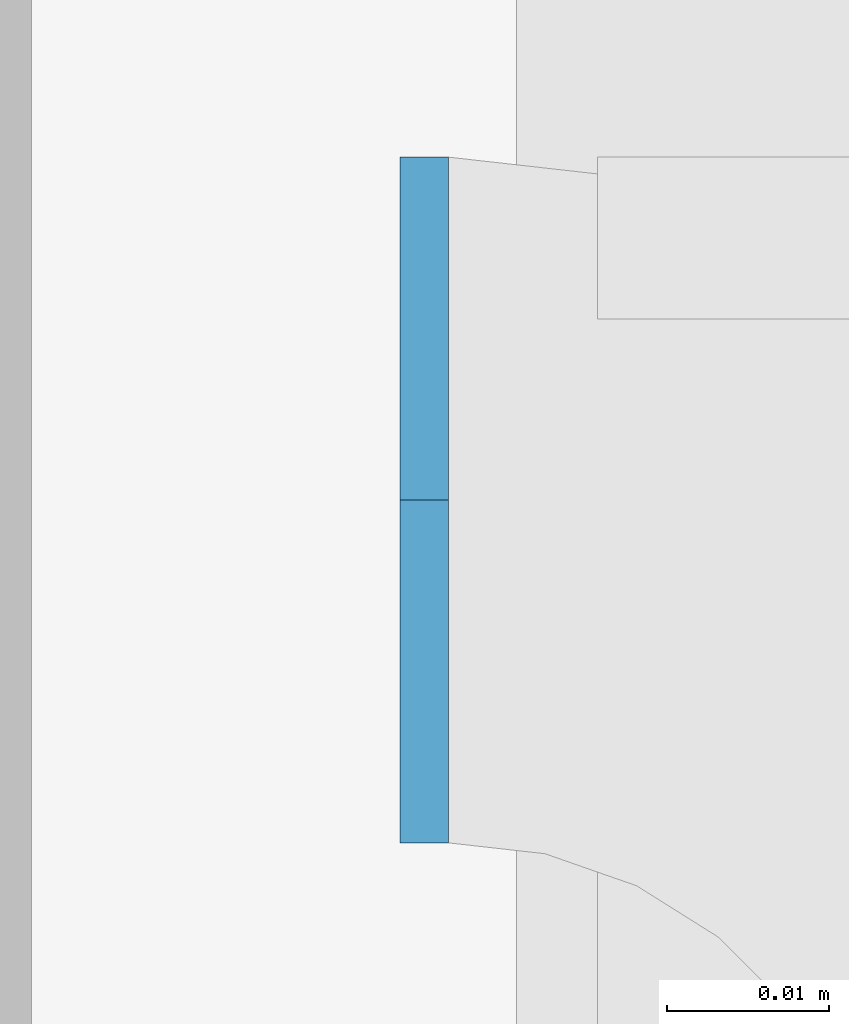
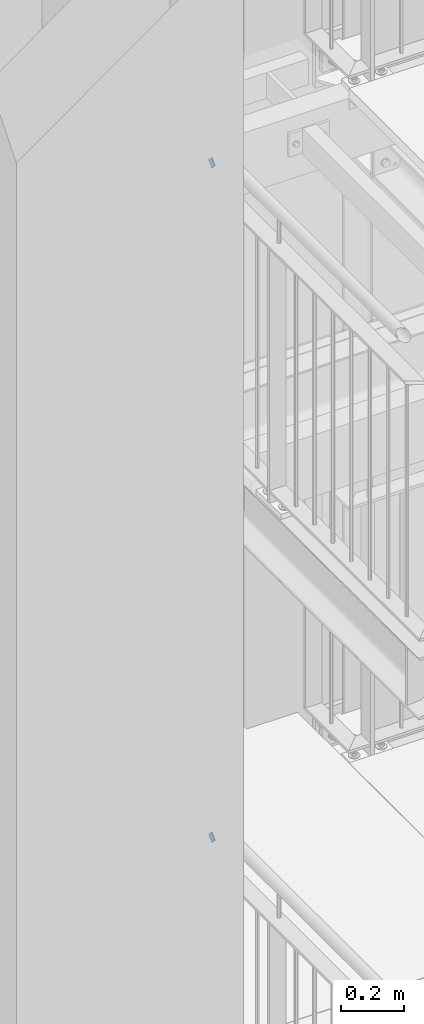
# One storey, part 220 of 825: 2 plates, 8 openings.
"""IFC2X3 building model written with IfcOpenShell, lengths in millimetres."""

from ifc_helpers import new_model, entity, si_unit, converted_unit, point, frame, frame_2d, origin, origin_with_axes, place, context, project, spatial, polyline, circle_curve, line_curve, trimmed, segment, composite_curve, outline, extrude, material, layer, layer_set, element, save


model = new_model("IFC2X3")

# Units and contexts
model_context = context("Model", 3, precision=1e-09, world=origin_with_axes())
ifc_project = project(units=[si_unit("LENGTHUNIT", "METRE", prefix="MILLI"), si_unit("AREAUNIT", "SQUARE_METRE"), si_unit("VOLUMEUNIT", "CUBIC_METRE"), converted_unit("PLANEANGLEUNIT", "DEGREE", entity("IfcPlaneAngleMeasure", 0.01745329), si_unit("PLANEANGLEUNIT", "RADIAN"), dimensions=[0, 0, 0, 0, 0, 0, 0])], contexts=[model_context])

# Site, building, storey
site_placement = place(None, origin_with_axes())
site = spatial("IfcSite", under=ifc_project, at=site_placement, Name="Cnopf'sche Kinderklinik", CompositionType="ELEMENT")
building_placement = place(site_placement, origin_with_axes())
building = spatial("IfcBuilding", under=site, at=building_placement, Name="Struktur 1", CompositionType="ELEMENT")
storey_placement = place(building_placement, origin_with_axes())
storey = spatial("IfcBuildingStorey", under=building, at=storey_placement, Name="Default Storey", CompositionType="ELEMENT", Elevation=0.0)

# Plate, openings
ifc_material = material(Name="S235JR")
ifc_layer = layer(ifc_material, 3.0)
ifc_layer_set = layer_set([ifc_layer], Name="S235JR")
plate_1_placement = place(None, frame((3232.513402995, 5783.18329849, 11092.000000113), z_axis=(-1.0, 0.0, 0.0), x_axis=(0.0, 0.0, 1.0)))
plate_1 = element("IfcPlate", 1, at=plate_1_placement, inside=storey, material=ifc_layer_set, Name="-", ObjectType="-", context=model_context, shape_type="SweptSolid", body=[
    extrude(outline(polyline([(21.2, 0.0), (21.2, 42.4), (-21.2, 42.4), (-21.2, 0.0), (21.2, 0.0)])), origin_with_axes(), (0.0, 0.0, 1.0), 3.0),
])
opening_1_placement = place(plate_1_placement, frame((0.0, 0.0, -0.01), z_axis=(0.0, 0.0, 1.0), x_axis=(1.0, 0.0, 0.0)))
element("IfcOpeningElement", 2, at=opening_1_placement, cuts=plate_1, ObjectType="Opening", context=model_context, shape_type="SweptSolid", body=[
    extrude(outline(composite_curve([segment(trimmed(line_curve((21.2, 0.0), (0.0, 1.0), 21.2), [point((21.2, 0.0))], [point((21.2, 21.2))], True, "CARTESIAN"), True, "CONTINUOUS"), segment(trimmed(circle_curve(frame_2d((0.0, 21.2), x_axis=(-1.0, 0.0)), 21.2), [point((21.2, 21.2))], [point((0.0, 0.0))], False, "CARTESIAN"), True, "CONTINUOUS"), segment(trimmed(line_curve((0.0, 0.0), (1.0, 0.0), 21.2), [point((0.0, 0.0))], [point((21.2, 0.0))], True, "CARTESIAN"), True, "CONTINUOUS")], self_intersect=False)), origin(), (0.0, 0.0, 1.0), 3.02),
])
opening_2_placement = place(plate_1_placement, frame((0.0, 0.0, -0.01), z_axis=(0.0, 0.0, 1.0), x_axis=(1.0, 0.0, 0.0)))
element("IfcOpeningElement", 3, at=opening_2_placement, cuts=plate_1, ObjectType="Opening", context=model_context, shape_type="SweptSolid", body=[
    extrude(outline(composite_curve([segment(trimmed(line_curve((21.2, 42.4), (-1.0, 0.0), 21.2), [point((21.2, 42.4))], [point((0.0, 42.4))], True, "CARTESIAN"), True, "CONTINUOUS"), segment(trimmed(circle_curve(frame_2d((0.0, 21.2), x_axis=(-1.0, 0.0)), 21.2), [point((0.0, 42.4))], [point((21.2, 21.2))], False, "CARTESIAN"), True, "CONTINUOUS"), segment(trimmed(line_curve((21.2, 21.2), (0.0, 1.0), 21.2), [point((21.2, 21.2))], [point((21.2, 42.4))], True, "CARTESIAN"), True, "CONTINUOUS")], self_intersect=False)), origin(), (0.0, 0.0, 1.0), 3.02),
])
opening_3_placement = place(plate_1_placement, frame((0.0, 0.0, -0.01), z_axis=(0.0, 0.0, 1.0), x_axis=(1.0, 0.0, 0.0)))
element("IfcOpeningElement", 4, at=opening_3_placement, cuts=plate_1, ObjectType="Opening", context=model_context, shape_type="SweptSolid", body=[
    extrude(outline(composite_curve([segment(trimmed(line_curve((-21.2, 42.4), (0.0, -1.0), 21.2), [point((-21.2, 42.4))], [point((-21.2, 21.2))], True, "CARTESIAN"), True, "CONTINUOUS"), segment(trimmed(circle_curve(frame_2d((0.0, 21.2), x_axis=(-1.0, 0.0)), 21.2), [point((-21.2, 21.2))], [point((0.0, 42.4))], False, "CARTESIAN"), True, "CONTINUOUS"), segment(trimmed(line_curve((0.0, 42.4), (-1.0, 0.0), 21.2), [point((0.0, 42.4))], [point((-21.2, 42.4))], True, "CARTESIAN"), True, "CONTINUOUS")], self_intersect=False)), origin(), (0.0, 0.0, 1.0), 3.02),
])
opening_4_placement = place(plate_1_placement, frame((0.0, 0.0, -0.01), z_axis=(0.0, 0.0, 1.0), x_axis=(1.0, 0.0, 0.0)))
element("IfcOpeningElement", 5, at=opening_4_placement, cuts=plate_1, ObjectType="Opening", context=model_context, shape_type="SweptSolid", body=[
    extrude(outline(composite_curve([segment(trimmed(line_curve((-21.2, 0.0), (1.0, 0.0), 21.2), [point((-21.2, 0.0))], [point((0.0, 0.0))], True, "CARTESIAN"), True, "CONTINUOUS"), segment(trimmed(circle_curve(frame_2d((0.0, 21.2), x_axis=(-1.0, 0.0)), 21.2), [point((0.0, 0.0))], [point((-21.2, 21.2))], False, "CARTESIAN"), True, "CONTINUOUS"), segment(trimmed(line_curve((-21.2, 21.2), (0.0, -1.0), 21.2), [point((-21.2, 21.2))], [point((-21.2, 0.0))], True, "CARTESIAN"), True, "CONTINUOUS")], self_intersect=False)), origin(), (0.0, 0.0, 1.0), 3.02),
])

plate_2_placement = place(None, frame((3232.513402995, 5783.18329849, 8460.000000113), z_axis=(-1.0, 0.0, 0.0), x_axis=(0.0, 0.0, 1.0)))
plate_2 = element("IfcPlate", 6, at=plate_2_placement, inside=storey, material=ifc_layer_set, Name="-", ObjectType="-", context=model_context, shape_type="SweptSolid", body=[
    extrude(outline(polyline([(21.2, 0.0), (21.2, 42.4), (-21.2, 42.4), (-21.2, 0.0), (21.2, 0.0)])), origin_with_axes(), (0.0, 0.0, 1.0), 3.0),
])
opening_5_placement = place(plate_2_placement, frame((0.0, 0.0, -0.01), z_axis=(0.0, 0.0, 1.0), x_axis=(1.0, 0.0, 0.0)))
element("IfcOpeningElement", 7, at=opening_5_placement, cuts=plate_2, ObjectType="Opening", context=model_context, shape_type="SweptSolid", body=[
    extrude(outline(composite_curve([segment(trimmed(line_curve((21.2, 0.0), (0.0, 1.0), 21.2), [point((21.2, 0.0))], [point((21.2, 21.2))], True, "CARTESIAN"), True, "CONTINUOUS"), segment(trimmed(circle_curve(frame_2d((0.0, 21.2), x_axis=(-1.0, 0.0)), 21.2), [point((21.2, 21.2))], [point((0.0, 0.0))], False, "CARTESIAN"), True, "CONTINUOUS"), segment(trimmed(line_curve((0.0, 0.0), (1.0, 0.0), 21.2), [point((0.0, 0.0))], [point((21.2, 0.0))], True, "CARTESIAN"), True, "CONTINUOUS")], self_intersect=False)), origin(), (0.0, 0.0, 1.0), 3.02),
])
opening_6_placement = place(plate_2_placement, frame((0.0, 0.0, -0.01), z_axis=(0.0, 0.0, 1.0), x_axis=(1.0, 0.0, 0.0)))
element("IfcOpeningElement", 8, at=opening_6_placement, cuts=plate_2, ObjectType="Opening", context=model_context, shape_type="SweptSolid", body=[
    extrude(outline(composite_curve([segment(trimmed(line_curve((21.2, 42.4), (-1.0, 0.0), 21.2), [point((21.2, 42.4))], [point((0.0, 42.4))], True, "CARTESIAN"), True, "CONTINUOUS"), segment(trimmed(circle_curve(frame_2d((0.0, 21.2), x_axis=(-1.0, 0.0)), 21.2), [point((0.0, 42.4))], [point((21.2, 21.2))], False, "CARTESIAN"), True, "CONTINUOUS"), segment(trimmed(line_curve((21.2, 21.2), (0.0, 1.0), 21.2), [point((21.2, 21.2))], [point((21.2, 42.4))], True, "CARTESIAN"), True, "CONTINUOUS")], self_intersect=False)), origin(), (0.0, 0.0, 1.0), 3.02),
])
opening_7_placement = place(plate_2_placement, frame((0.0, 0.0, -0.01), z_axis=(0.0, 0.0, 1.0), x_axis=(1.0, 0.0, 0.0)))
element("IfcOpeningElement", 9, at=opening_7_placement, cuts=plate_2, ObjectType="Opening", context=model_context, shape_type="SweptSolid", body=[
    extrude(outline(composite_curve([segment(trimmed(line_curve((-21.2, 42.4), (0.0, -1.0), 21.2), [point((-21.2, 42.4))], [point((-21.2, 21.2))], True, "CARTESIAN"), True, "CONTINUOUS"), segment(trimmed(circle_curve(frame_2d((0.0, 21.2), x_axis=(-1.0, 0.0)), 21.2), [point((-21.2, 21.2))], [point((0.0, 42.4))], False, "CARTESIAN"), True, "CONTINUOUS"), segment(trimmed(line_curve((0.0, 42.4), (-1.0, 0.0), 21.2), [point((0.0, 42.4))], [point((-21.2, 42.4))], True, "CARTESIAN"), True, "CONTINUOUS")], self_intersect=False)), origin(), (0.0, 0.0, 1.0), 3.02),
])
opening_8_placement = place(plate_2_placement, frame((0.0, 0.0, -0.01), z_axis=(0.0, 0.0, 1.0), x_axis=(1.0, 0.0, 0.0)))
element("IfcOpeningElement", 10, at=opening_8_placement, cuts=plate_2, ObjectType="Opening", context=model_context, shape_type="SweptSolid", body=[
    extrude(outline(composite_curve([segment(trimmed(line_curve((-21.2, 0.0), (1.0, 0.0), 21.2), [point((-21.2, 0.0))], [point((0.0, 0.0))], True, "CARTESIAN"), True, "CONTINUOUS"), segment(trimmed(circle_curve(frame_2d((0.0, 21.2), x_axis=(-1.0, 0.0)), 21.2), [point((0.0, 0.0))], [point((-21.2, 21.2))], False, "CARTESIAN"), True, "CONTINUOUS"), segment(trimmed(line_curve((-21.2, 21.2), (0.0, -1.0), 21.2), [point((-21.2, 21.2))], [point((-21.2, 0.0))], True, "CARTESIAN"), True, "CONTINUOUS")], self_intersect=False)), origin(), (0.0, 0.0, 1.0), 3.02),
])

save(model, "model.ifc")
